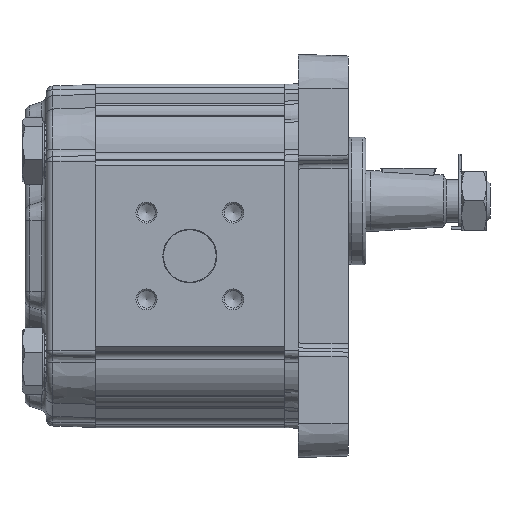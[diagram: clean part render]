
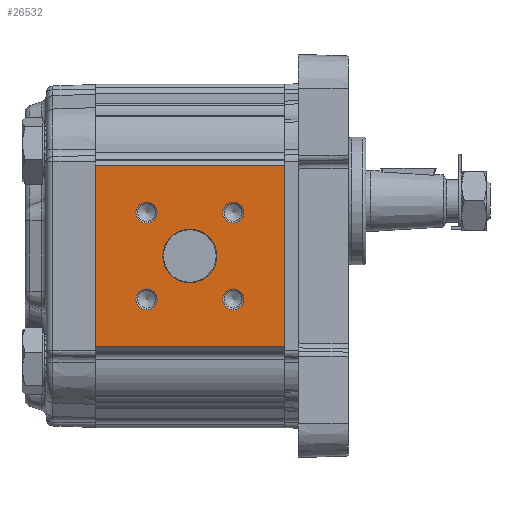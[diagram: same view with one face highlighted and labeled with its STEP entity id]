
A CAD part, left-side view. The second image highlights one B-rep face of the part: STEP entity #26532.
In plain terms, the highlighted planar face has unit normal (-1, 0, 0) as drawn and (1, 0, 0) by its records, which use the part's own axes.
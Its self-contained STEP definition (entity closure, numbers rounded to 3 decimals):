
#1001=PLANE('',#27806);
#1524=CIRCLE('',#27807,7.7);
#1525=CIRCLE('',#27808,3.);
#1526=CIRCLE('',#27809,3.);
#1527=CIRCLE('',#27810,3.);
#1528=CIRCLE('',#27811,3.);
#3572=ORIENTED_EDGE('',*,*,#9257,.T.);
#3573=ORIENTED_EDGE('',*,*,#9258,.T.);
#3574=ORIENTED_EDGE('',*,*,#9259,.T.);
#3575=ORIENTED_EDGE('',*,*,#9260,.T.);
#3576=ORIENTED_EDGE('',*,*,#9261,.T.);
#3577=ORIENTED_EDGE('',*,*,#9262,.F.);
#3578=ORIENTED_EDGE('',*,*,#9263,.F.);
#3579=ORIENTED_EDGE('',*,*,#9264,.T.);
#3580=ORIENTED_EDGE('',*,*,#9265,.T.);
#9257=EDGE_CURVE('',#12219,#12219,#1524,.F.);
#9258=EDGE_CURVE('',#12220,#12220,#1525,.F.);
#9259=EDGE_CURVE('',#12221,#12221,#1526,.F.);
#9260=EDGE_CURVE('',#12222,#12222,#1527,.F.);
#9261=EDGE_CURVE('',#12223,#12223,#1528,.F.);
#9262=EDGE_CURVE('',#12224,#12225,#14077,.T.);
#9263=EDGE_CURVE('',#12226,#12224,#14078,.T.);
#9264=EDGE_CURVE('',#12226,#12227,#14079,.T.);
#9265=EDGE_CURVE('',#12227,#12225,#14080,.T.);
#12219=VERTEX_POINT('',#36948);
#12220=VERTEX_POINT('',#36950);
#12221=VERTEX_POINT('',#36952);
#12222=VERTEX_POINT('',#36954);
#12223=VERTEX_POINT('',#36956);
#12224=VERTEX_POINT('',#36958);
#12225=VERTEX_POINT('',#36959);
#12226=VERTEX_POINT('',#36961);
#12227=VERTEX_POINT('',#36963);
#14077=LINE('',#36957,#15386);
#14078=LINE('',#36960,#15387);
#14079=LINE('',#36962,#15388);
#14080=LINE('',#36964,#15389);
#15386=VECTOR('',#30728,1000.);
#15387=VECTOR('',#30729,1000.);
#15388=VECTOR('',#30730,1000.);
#15389=VECTOR('',#30731,1000.);
#16843=EDGE_LOOP('',(#3572));
#16844=EDGE_LOOP('',(#3573));
#16845=EDGE_LOOP('',(#3574));
#16846=EDGE_LOOP('',(#3575));
#16847=EDGE_LOOP('',(#3576));
#16848=EDGE_LOOP('',(#3577,#3578,#3579,#3580));
#18124=FACE_BOUND('',#16843,.T.);
#18125=FACE_BOUND('',#16844,.T.);
#18126=FACE_BOUND('',#16845,.T.);
#18127=FACE_BOUND('',#16846,.T.);
#18128=FACE_BOUND('',#16847,.T.);
#18129=FACE_BOUND('',#16848,.T.);
#26532=ADVANCED_FACE('',(#18124,#18125,#18126,#18127,#18128,#18129),#1001,
 .T.);
#27806=AXIS2_PLACEMENT_3D('',#36946,#30716,#30717);
#27807=AXIS2_PLACEMENT_3D('',#36947,#30718,#30719);
#27808=AXIS2_PLACEMENT_3D('',#36949,#30720,#30721);
#27809=AXIS2_PLACEMENT_3D('',#36951,#30722,#30723);
#27810=AXIS2_PLACEMENT_3D('',#36953,#30724,#30725);
#27811=AXIS2_PLACEMENT_3D('',#36955,#30726,#30727);
#30716=DIRECTION('',(1.,0.,0.));
#30717=DIRECTION('',(0.,0.,-1.));
#30718=DIRECTION('',(1.,0.,0.));
#30719=DIRECTION('',(0.,0.,-1.));
#30720=DIRECTION('',(1.,0.,0.));
#30721=DIRECTION('',(0.,0.,-1.));
#30722=DIRECTION('',(1.,0.,0.));
#30723=DIRECTION('',(0.,0.,-1.));
#30724=DIRECTION('',(1.,0.,0.));
#30725=DIRECTION('',(0.,0.,-1.));
#30726=DIRECTION('',(1.,0.,0.));
#30727=DIRECTION('',(0.,0.,-1.));
#30728=DIRECTION('',(0.,0.,1.));
#30729=DIRECTION('',(0.,-1.,0.));
#30730=DIRECTION('',(0.,0.,1.));
#30731=DIRECTION('',(0.,-1.,0.));
#36946=CARTESIAN_POINT('',(45.,54.,-25.912));
#36947=CARTESIAN_POINT('',(45.,27.,0.));
#36948=CARTESIAN_POINT('',(45.,27.,-7.7));
#36949=CARTESIAN_POINT('',(45.,39.374,-12.374));
#36950=CARTESIAN_POINT('',(45.,39.374,-15.374));
#36951=CARTESIAN_POINT('',(45.,14.626,-12.374));
#36952=CARTESIAN_POINT('',(45.,14.626,-15.374));
#36953=CARTESIAN_POINT('',(45.,39.374,12.374));
#36954=CARTESIAN_POINT('',(45.,39.374,9.374));
#36955=CARTESIAN_POINT('',(45.,14.626,12.374));
#36956=CARTESIAN_POINT('',(45.,14.626,9.374));
#36957=CARTESIAN_POINT('',(45.,0.,-25.912));
#36958=CARTESIAN_POINT('',(45.,0.,-25.912));
#36959=CARTESIAN_POINT('',(45.,0.,25.912));
#36960=CARTESIAN_POINT('',(45.,54.,-25.912));
#36961=CARTESIAN_POINT('',(45.,54.,-25.912));
#36962=CARTESIAN_POINT('',(45.,54.,-25.912));
#36963=CARTESIAN_POINT('',(45.,54.,25.912));
#36964=CARTESIAN_POINT('',(45.,54.,25.912));
